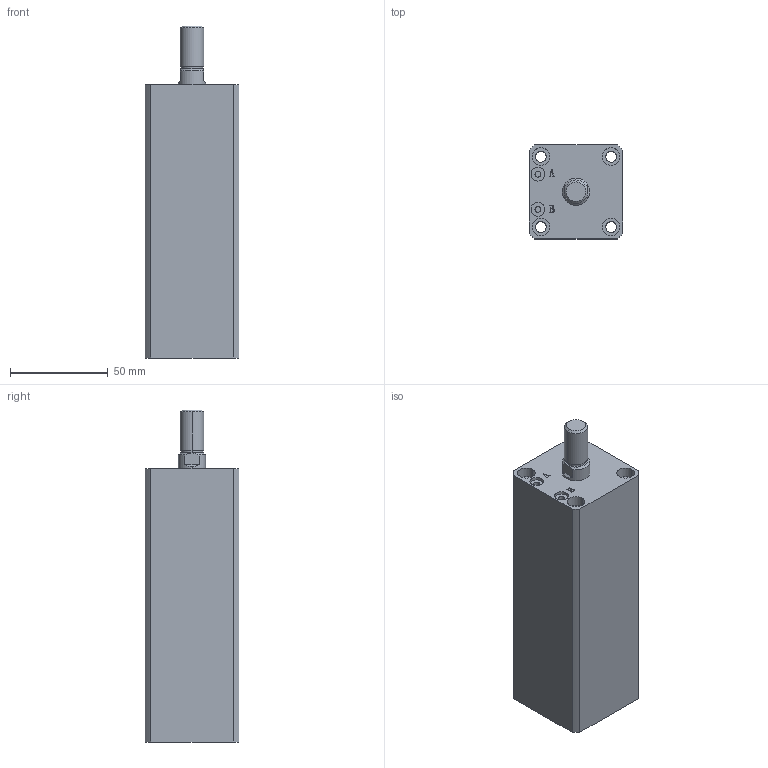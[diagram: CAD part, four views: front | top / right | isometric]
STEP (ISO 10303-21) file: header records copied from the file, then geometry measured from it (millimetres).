
FILE_DESCRIPTION (( 'STEP AP203' ), '1' );
FILE_NAME ('HTB-SDMA25-95W.STEP', '2019-10-07T11:17:44', ( '微软用户' ), ( '微软中国' ), 'SwSTEP 2.0', 'SolidWorks 2012', '' );
FILE_SCHEMA (( 'CONFIG_CONTROL_DESIGN' ));
Length unit declared in the file: millimetre
Products named in the file (3): HTB-SDMA25-95W; HTB-SDMA25-95W活塞杆; HTB-SDMA25-95掛极
Assembly tree (2 placements, depth 2):
  HTB-SDMA25-95W
    HTB-SDMA25-95掛极
    HTB-SDMA25-95W活塞杆
Bounding box: 48 x 48 x 170 mm (x, y, z)
Volume: 276195.9 mm3; surface area: 59689.7 mm2
Topology: 2 solids, 2 shells, 141 faces, 335 edges, 220 vertices
Faces by surface type: plane 67, cylinder 48, bspline 16, torus 6, cone 4
Entity records: 5178 total; most frequent: CARTESIAN_POINT 1609, ORIENTED_EDGE 670, DIRECTION 667, EDGE_CURVE 335, AXIS2_PLACEMENT_3D 242, VERTEX_POINT 220, LINE 183, VECTOR 183
